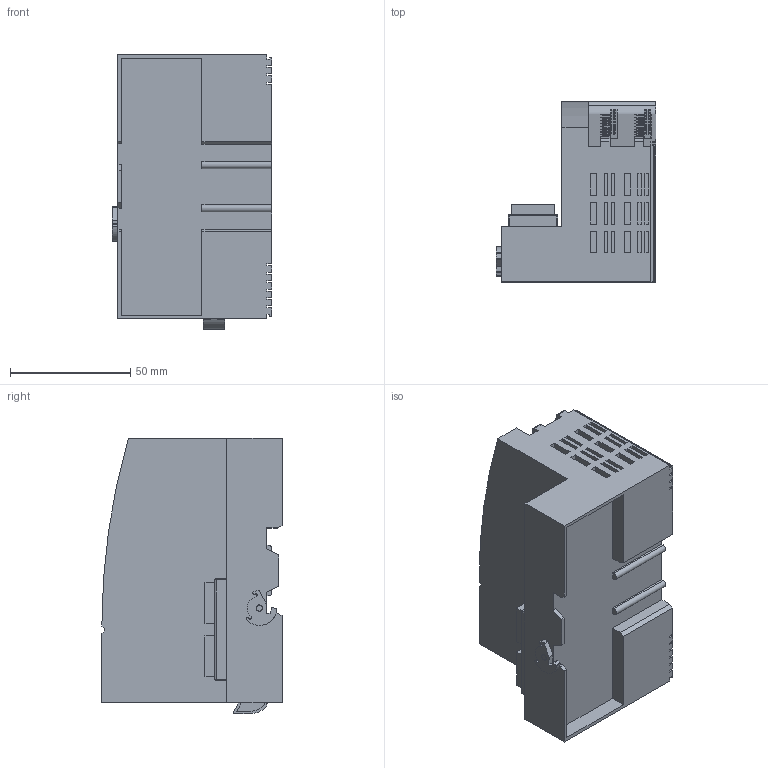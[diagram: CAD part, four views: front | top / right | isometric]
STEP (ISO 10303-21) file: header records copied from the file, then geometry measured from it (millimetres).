
FILE_DESCRIPTION (( 'STEP AP214' ), '1' );
FILE_NAME ('C3351.STEP', '2024-01-03T05:21:42', ( '' ), ( '' ), 'SwSTEP 2.0', 'SolidWorks 2021', '' );
FILE_SCHEMA (( 'AUTOMOTIVE_DESIGN' ));
Length unit declared in the file: millimetre
Products named in the file (1): C3351
Bounding box: 66.3 x 75 x 114.4 mm (x, y, z)
Volume: 320739.2 mm3; surface area: 55713.2 mm2
Topology: 1 solids, 1 shells, 1191 faces, 3165 edges, 2103 vertices
Faces by surface type: plane 1077, bspline 58, cylinder 52, sphere 4
Entity records: 38762 total; most frequent: CARTESIAN_POINT 9352, ORIENTED_EDGE 6322, DIRECTION 5416, EDGE_CURVE 3161, LINE 2938, VECTOR 2938, VERTEX_POINT 2103, EDGE_LOOP 1326
